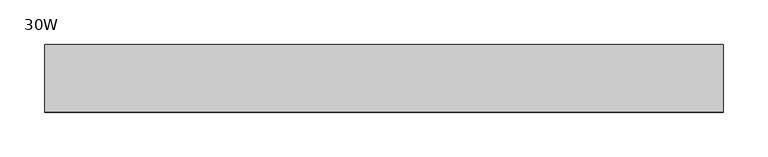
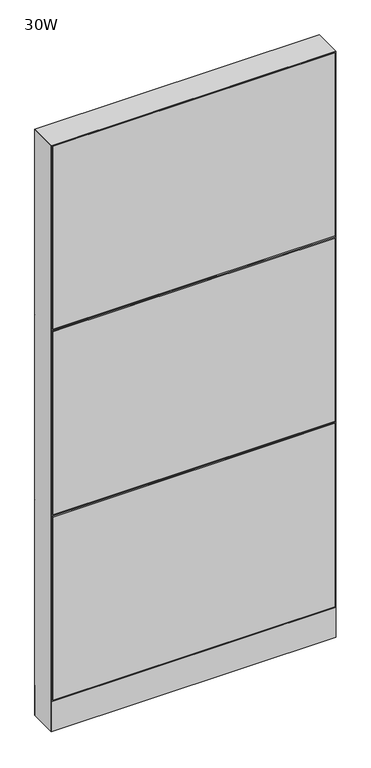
"""IFC4 building model written with IfcOpenShell, lengths in millimetres: furniture geometry, Steelcase - Montage - Frame - 65H - Enhanced Monolithic - Base Cavity : 30W."""

from ifc_helpers import new_model, si_unit, point, frame, frame_2d, origin, origin_with_axes, place, context, project, spatial, polyline, circle_curve, trimmed, segment, composite_curve, outline, extrude, faceted_brep, source, transform, mapped, element, save


def furniture_30w_8a918555(model_context):
    return source(origin(), model_context, "Body", "SolidModel", [
        extrude(outline(polyline([(3.175, 31.7500194), (3.175, 38.1000194), (758.825, 38.1000194), (758.825, 31.7500194), (3.175, 31.7500194)])), frame((0.0, 0.0, 92.075), z_axis=(0.0, 0.0, 1.0), x_axis=(1.0, 0.0, 0.0)), (0.0, 0.0, 1.0), 517.525),
        faceted_brep([(-5.4e-06, 38.102627, 612.7749973), (6.3499917, 31.7526299, 606.4250003), (6.3499917, 31.7526299, 619.1249997), (755.6500047, 31.7526299, 619.1249997), (755.6500047, 31.7526299, 606.4250003), (762.0, 38.1026253, 612.7749956)], [[[0, 1, 2]], [[3, 4, 5]], [[0, 2, 3, 5]], [[5, 4, 1, 0]], [[2, 1, 4, 3]]]),
        faceted_brep([(-5.4e-06, 38.102627, 1136.6499973), (6.3499917, 31.7526299, 1130.3000003), (6.3499917, 31.7526299, 1142.9999997), (755.6500047, 31.7526299, 1142.9999997), (755.6500047, 31.7526299, 1130.3000003), (762.0, 38.1026253, 1136.6499956)], [[[0, 1, 2]], [[3, 4, 5]], [[0, 2, 3, 5]], [[5, 4, 1, 0]], [[2, 1, 4, 3]]]),
        extrude(outline(polyline([(3.175, 31.7500194), (3.175, 38.1000194), (758.825, 38.1000194), (758.825, 31.7500194), (3.175, 31.7500194)])), frame((0.0, 0.0, 615.95), z_axis=(0.0, 0.0, 1.0), x_axis=(1.0, 0.0, 0.0)), (0.0, 0.0, 1.0), 517.525),
        extrude(outline(polyline([(3.175, 31.7500194), (3.175, 38.1000194), (758.825, 38.1000194), (758.825, 31.7500194), (3.175, 31.7500194)])), frame((0.0, 0.0, 1139.825), z_axis=(0.0, 0.0, 1.0), x_axis=(1.0, 0.0, 0.0)), (0.0, 0.0, 1.0), 517.525),
        extrude(outline(polyline([(3.175, -31.7500194), (758.825, -31.7500194), (758.825, -38.1000194), (3.175, -38.1000194), (3.175, -31.7500194)])), frame((0.0, 0.0, 92.075), z_axis=(0.0, 0.0, 1.0), x_axis=(1.0, 0.0, 0.0)), (0.0, 0.0, 1.0), 517.525),
        faceted_brep([(-5.4e-06, -38.102627, 612.7750027), (6.3499917, -31.7526299, 619.1249997), (6.3499917, -31.7526299, 606.4250003), (755.6500047, -31.7526299, 619.1249997), (762.0, -38.1026253, 612.7750044), (755.6500047, -31.7526299, 606.4250003)], [[[0, 1, 2]], [[3, 4, 5]], [[0, 4, 3, 1]], [[4, 0, 2, 5]], [[1, 3, 5, 2]]]),
        faceted_brep([(-5.4e-06, -38.102627, 1136.6500027), (6.3499917, -31.7526299, 1142.9999997), (6.3499917, -31.7526299, 1130.3000003), (755.6500047, -31.7526299, 1142.9999997), (762.0, -38.1026253, 1136.6500044), (755.6500047, -31.7526299, 1130.3000003)], [[[0, 1, 2]], [[3, 4, 5]], [[0, 4, 3, 1]], [[4, 0, 2, 5]], [[1, 3, 5, 2]]]),
        extrude(outline(polyline([(3.175, -31.7500194), (758.825, -31.7500194), (758.825, -38.1000194), (3.175, -38.1000194), (3.175, -31.7500194)])), frame((0.0, 0.0, 615.95), z_axis=(0.0, 0.0, 1.0), x_axis=(1.0, 0.0, 0.0)), (0.0, 0.0, 1.0), 517.525),
        extrude(outline(polyline([(3.175, -31.7500194), (758.825, -31.7500194), (758.825, -38.1000194), (3.175, -38.1000194), (3.175, -31.7500194)])), frame((0.0, 0.0, 1139.825), z_axis=(0.0, 0.0, 1.0), x_axis=(1.0, 0.0, 0.0)), (0.0, 0.0, 1.0), 517.525),
        extrude(outline(polyline([(6.350003, -31.7499985), (755.649997, -31.7499985), (762.0, -38.1000015), (0.0, -38.1000015), (6.350003, -31.7499985)])), frame((0.0, 0.0, 4.064), z_axis=(0.0, 0.0, 1.0), x_axis=(1.0, 0.0, 0.0)), (0.0, 0.0, 1.0), 84.835997),
        extrude(outline(polyline([(6.3500002, 31.7500017), (0.0, 38.1000015), (762.0, 38.1000015), (755.6500002, 31.7500017), (6.3500002, 31.7500017)])), frame((0.0, 0.0, 4.064), z_axis=(0.0, 0.0, 1.0), x_axis=(1.0, 0.0, 0.0)), (0.0, 0.0, 1.0), 84.835997),
        faceted_brep([(762.0, -38.1000015, 1660.525), (0.0, -38.1000015, 1660.525), (6.3500484, -31.749953, 1654.1749516), (755.6499516, -31.749953, 1654.1749516), (6.3500484, 31.749953, 1654.1749516), (755.6499516, 31.749953, 1654.1749516), (0.0, 38.1000015, 1660.525), (762.0, 38.1000015, 1660.525)], [[[0, 1, 2, 3]], [[3, 2, 4, 5]], [[6, 7, 5, 4]], [[1, 0, 7, 6]], [[2, 1, 6, 4]], [[0, 3, 5, 7]]]),
        extrude(outline(composite_curve([segment(trimmed(circle_curve(frame_2d((44.45, 0.0)), 15.24), [point((29.21, 0.0))], [point((59.69, 0.0))], False, "CARTESIAN"), True, "CONTINUOUS"), segment(trimmed(circle_curve(frame_2d((44.45, 0.0)), 15.24), [point((59.69, 0.0))], [point((29.21, 0.0))], False, "CARTESIAN"), True, "CONTINUOUS")], self_intersect=False)), origin_with_axes(), (0.0, 0.0, 1.0), 4.064),
        extrude(outline(composite_curve([segment(trimmed(circle_curve(frame_2d((717.55, 0.0)), 15.24), [point((702.31, 0.0))], [point((732.79, 0.0))], False, "CARTESIAN"), True, "CONTINUOUS"), segment(trimmed(circle_curve(frame_2d((717.55, 0.0)), 15.24), [point((732.79, 0.0))], [point((702.31, 0.0))], False, "CARTESIAN"), True, "CONTINUOUS")], self_intersect=False)), origin_with_axes(), (0.0, 0.0, 1.0), 4.064),
        faceted_brep([(762.0, -38.1000106, 4.064), (762.0, 38.1000015, 4.064), (762.0, 38.1000015, 1660.525), (762.0, -38.1000106, 1660.5249637), (0.0, 38.1000015, 4.064), (0.0, -38.1000015, 4.064), (0.0, -38.1000015, 1660.525), (0.0, 38.1000015, 1660.525), (755.6499879, 31.7500017, 606.425), (6.35, 31.7500017, 606.425), (6.3499998, 31.7500017, 619.125), (755.6499879, 31.7500017, 619.125), (6.35, -31.7499985, 619.125), (755.6499879, -31.7499985, 619.125), (6.350003, -31.7499985, 606.425), (755.6499879, -31.7499985, 606.425), (755.6499879, 31.7500017, 1130.3), (6.35, 31.7500017, 1130.3), (6.3499998, 31.7500017, 1143.0), (755.6499879, 31.7500017, 1143.0), (6.35, -31.7499985, 1143.0), (755.6499879, -31.7499985, 1143.0), (6.350003, -31.7499985, 1130.3), (755.6499879, -31.7499985, 1130.3), (6.35, 31.7500015, 4.064), (6.35, -31.7500015, 4.064), (755.6499879, 31.7499894, 4.064), (755.6499879, -31.7499985, 4.064), (6.35, 31.7500015, 1654.175), (6.35, -31.7500015, 1654.175), (755.6499879, -31.7499985, 1654.1749516), (755.6499879, 31.7499895, 1654.1749516)], [[[0, 1, 2, 3]], [[4, 5, 6, 7]], [[8, 9, 10, 11]], [[11, 10, 12, 13]], [[13, 12, 14, 15]], [[9, 8, 15, 14]], [[16, 17, 18, 19]], [[19, 18, 20, 21]], [[21, 20, 22, 23]], [[17, 16, 23, 22]], [[24, 25, 5, 4]], [[26, 1, 0, 27]], [[24, 4, 7, 28, 18, 17, 10, 9]], [[5, 25, 14, 12, 22, 20, 29, 6]], [[20, 18, 28, 29]], [[25, 24, 9, 14]], [[10, 17, 22, 12]], [[19, 21, 30, 31]], [[26, 27, 15, 8]], [[16, 11, 13, 23]], [[27, 0, 3, 30, 21, 23, 13, 15]], [[1, 26, 8, 11, 16, 19, 31, 2]], [[7, 6, 29, 28]], [[3, 2, 31, 30]]]),
    ])


if __name__ == "__main__":
    model = new_model("IFC4")
    model_context = context("Model", 3, world=origin())
    ifc_project = project(units=[si_unit("LENGTHUNIT", "METRE", prefix="MILLI")], contexts=[model_context])
    site = spatial("IfcSite", under=ifc_project)
    building = spatial("IfcBuilding", under=site)
    placement = place(None, origin())
    furniture_30w_shape = furniture_30w_8a918555(model_context)
    element("IfcFurniture", 1, ObjectType="Steelcase - Montage - Frame - 65H - Enhanced Monolithic - Base Cavity : 30W", at=placement, inside=building, context=model_context, shape_type="MappedRepresentation", body=[
        mapped(furniture_30w_shape, transform((0.0, 0.0, 0.0), x_axis=(1.0, 0.0, 0.0), y_axis=(0.0, 1.0, 0.0), z_axis=(0.0, 0.0, 1.0))),
    ])
    save(model, "model.ifc")
